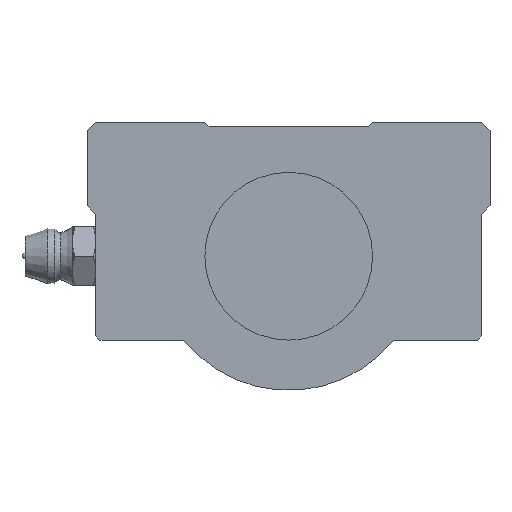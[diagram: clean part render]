
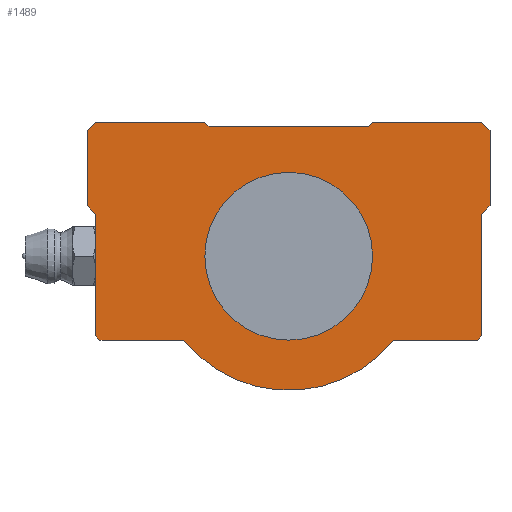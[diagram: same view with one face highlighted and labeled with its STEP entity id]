
A CAD part, left-side view. The second image highlights one B-rep face of the part: STEP entity #1489.
In plain terms, the highlighted planar face has unit normal (-1, 0, 0).
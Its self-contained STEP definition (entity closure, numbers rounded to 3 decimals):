
#1094=CARTESIAN_POINT('',(130.0,22.5,-10.));
#1095=VERTEX_POINT('',#1094);
#1102=CARTESIAN_POINT('',(130.0,23.,-9.5));
#1103=VERTEX_POINT('',#1102);
#1104=CARTESIAN_POINT('',(130.0,22.5,-10.));
#1105=DIRECTION('',(0.0,0.707,0.707));
#1106=VECTOR('',#1105,0.707);
#1107=LINE('',#1104,#1106);
#1108=EDGE_CURVE('',#1095,#1103,#1107,.T.);
#1133=CARTESIAN_POINT('',(130.0,12.49,-10.));
#1134=VERTEX_POINT('',#1133);
#1141=CARTESIAN_POINT('',(130.0,12.49,-10.));
#1142=DIRECTION('',(0.0,1.0,0.0));
#1143=VECTOR('',#1142,10.01);
#1144=LINE('',#1141,#1143);
#1145=EDGE_CURVE('',#1134,#1095,#1144,.T.);
#1326=CARTESIAN_POINT('',(130.0,-23.,-9.5));
#1327=VERTEX_POINT('',#1326);
#1334=CARTESIAN_POINT('',(130.0,-22.5,-10.));
#1335=VERTEX_POINT('',#1334);
#1336=CARTESIAN_POINT('',(130.0,-23.,-9.5));
#1337=DIRECTION('',(0.0,0.707,-0.707));
#1338=VECTOR('',#1337,0.707);
#1339=LINE('',#1336,#1338);
#1340=EDGE_CURVE('',#1327,#1335,#1339,.T.);
#1351=CARTESIAN_POINT('',(130.0,-17.0,15.75));
#1352=DIRECTION('',(1.0,0.0,0.0));
#1353=DIRECTION('',(0.0,0.0,-1.0));
#1354=AXIS2_PLACEMENT_3D('',#1351,#1352,#1353);
#1355=PLANE('',#1354);
#1356=ORIENTED_EDGE('',*,*,#1108,.F.);
#1357=ORIENTED_EDGE('',*,*,#1145,.F.);
#1358=CARTESIAN_POINT('',(130.0,-12.49,-10.));
#1359=VERTEX_POINT('',#1358);
#1360=CARTESIAN_POINT('',(130.0,0.0,0.0));
#1361=DIRECTION('',(1.,0.0,0.0));
#1362=DIRECTION('',(0.0,-0.781,-0.625));
#1363=AXIS2_PLACEMENT_3D('',#1360,#1361,#1362);
#1364=CIRCLE('',#1363,16.0);
#1365=EDGE_CURVE('',#1359,#1134,#1364,.T.);
#1366=ORIENTED_EDGE('',*,*,#1365,.F.);
#1367=CARTESIAN_POINT('',(130.0,-22.5,-10.));
#1368=DIRECTION('',(0.0,1.0,0.0));
#1369=VECTOR('',#1368,10.01);
#1370=LINE('',#1367,#1369);
#1371=EDGE_CURVE('',#1335,#1359,#1370,.T.);
#1372=ORIENTED_EDGE('',*,*,#1371,.F.);
#1373=ORIENTED_EDGE('',*,*,#1340,.F.);
#1374=CARTESIAN_POINT('',(130.0,-23.,5.));
#1375=VERTEX_POINT('',#1374);
#1376=CARTESIAN_POINT('',(130.0,-23.,5.));
#1377=DIRECTION('',(0.0,0.0,-1.0));
#1378=VECTOR('',#1377,14.5);
#1379=LINE('',#1376,#1378);
#1380=EDGE_CURVE('',#1375,#1327,#1379,.T.);
#1381=ORIENTED_EDGE('',*,*,#1380,.F.);
#1382=CARTESIAN_POINT('',(130.0,-24.,6.));
#1383=VERTEX_POINT('',#1382);
#1384=CARTESIAN_POINT('',(130.0,-24.,6.));
#1385=DIRECTION('',(0.0,0.707,-0.707));
#1386=VECTOR('',#1385,1.414);
#1387=LINE('',#1384,#1386);
#1388=EDGE_CURVE('',#1383,#1375,#1387,.T.);
#1389=ORIENTED_EDGE('',*,*,#1388,.F.);
#1390=CARTESIAN_POINT('',(130.0,-24.,15.));
#1391=VERTEX_POINT('',#1390);
#1392=CARTESIAN_POINT('',(130.0,-24.,15.));
#1393=DIRECTION('',(0.0,0.0,-1.0));
#1394=VECTOR('',#1393,9.);
#1395=LINE('',#1392,#1394);
#1396=EDGE_CURVE('',#1391,#1383,#1395,.T.);
#1397=ORIENTED_EDGE('',*,*,#1396,.F.);
#1398=CARTESIAN_POINT('',(130.0,-23.,16.));
#1399=VERTEX_POINT('',#1398);
#1400=CARTESIAN_POINT('',(130.0,-23.,16.));
#1401=DIRECTION('',(0.0,-0.707,-0.707));
#1402=VECTOR('',#1401,1.414);
#1403=LINE('',#1400,#1402);
#1404=EDGE_CURVE('',#1399,#1391,#1403,.T.);
#1405=ORIENTED_EDGE('',*,*,#1404,.F.);
#1406=CARTESIAN_POINT('',(130.0,-10.0,16.));
#1407=VERTEX_POINT('',#1406);
#1408=CARTESIAN_POINT('',(130.0,-10.0,16.));
#1409=DIRECTION('',(0.0,-1.0,0.0));
#1410=VECTOR('',#1409,13.);
#1411=LINE('',#1408,#1410);
#1412=EDGE_CURVE('',#1407,#1399,#1411,.T.);
#1413=ORIENTED_EDGE('',*,*,#1412,.F.);
#1414=CARTESIAN_POINT('',(130.0,-9.5,15.5));
#1415=VERTEX_POINT('',#1414);
#1416=CARTESIAN_POINT('',(130.0,-9.5,15.5));
#1417=DIRECTION('',(0.0,-0.707,0.707));
#1418=VECTOR('',#1417,0.707);
#1419=LINE('',#1416,#1418);
#1420=EDGE_CURVE('',#1415,#1407,#1419,.T.);
#1421=ORIENTED_EDGE('',*,*,#1420,.F.);
#1422=CARTESIAN_POINT('',(130.0,9.5,15.5));
#1423=VERTEX_POINT('',#1422);
#1424=CARTESIAN_POINT('',(130.0,9.5,15.5));
#1425=DIRECTION('',(0.0,-1.0,0.0));
#1426=VECTOR('',#1425,19.0);
#1427=LINE('',#1424,#1426);
#1428=EDGE_CURVE('',#1423,#1415,#1427,.T.);
#1429=ORIENTED_EDGE('',*,*,#1428,.F.);
#1430=CARTESIAN_POINT('',(130.0,10.0,16.));
#1431=VERTEX_POINT('',#1430);
#1432=CARTESIAN_POINT('',(130.0,10.0,16.));
#1433=DIRECTION('',(0.0,-0.707,-0.707));
#1434=VECTOR('',#1433,0.707);
#1435=LINE('',#1432,#1434);
#1436=EDGE_CURVE('',#1431,#1423,#1435,.T.);
#1437=ORIENTED_EDGE('',*,*,#1436,.F.);
#1438=CARTESIAN_POINT('',(130.0,23.,16.));
#1439=VERTEX_POINT('',#1438);
#1440=CARTESIAN_POINT('',(130.0,23.,16.));
#1441=DIRECTION('',(0.0,-1.0,0.0));
#1442=VECTOR('',#1441,13.);
#1443=LINE('',#1440,#1442);
#1444=EDGE_CURVE('',#1439,#1431,#1443,.T.);
#1445=ORIENTED_EDGE('',*,*,#1444,.F.);
#1446=CARTESIAN_POINT('',(130.0,24.,15.));
#1447=VERTEX_POINT('',#1446);
#1448=CARTESIAN_POINT('',(130.0,24.,15.));
#1449=DIRECTION('',(0.0,-0.707,0.707));
#1450=VECTOR('',#1449,1.414);
#1451=LINE('',#1448,#1450);
#1452=EDGE_CURVE('',#1447,#1439,#1451,.T.);
#1453=ORIENTED_EDGE('',*,*,#1452,.F.);
#1454=CARTESIAN_POINT('',(130.0,24.,6.));
#1455=VERTEX_POINT('',#1454);
#1456=CARTESIAN_POINT('',(130.0,24.,6.));
#1457=DIRECTION('',(0.0,0.0,1.0));
#1458=VECTOR('',#1457,9.);
#1459=LINE('',#1456,#1458);
#1460=EDGE_CURVE('',#1455,#1447,#1459,.T.);
#1461=ORIENTED_EDGE('',*,*,#1460,.F.);
#1462=CARTESIAN_POINT('',(130.0,23.,5.));
#1463=VERTEX_POINT('',#1462);
#1464=CARTESIAN_POINT('',(130.0,23.,5.));
#1465=DIRECTION('',(0.0,0.707,0.707));
#1466=VECTOR('',#1465,1.414);
#1467=LINE('',#1464,#1466);
#1468=EDGE_CURVE('',#1463,#1455,#1467,.T.);
#1469=ORIENTED_EDGE('',*,*,#1468,.F.);
#1470=CARTESIAN_POINT('',(130.0,23.,-9.5));
#1471=DIRECTION('',(0.0,0.0,1.0));
#1472=VECTOR('',#1471,14.5);
#1473=LINE('',#1470,#1472);
#1474=EDGE_CURVE('',#1103,#1463,#1473,.T.);
#1475=ORIENTED_EDGE('',*,*,#1474,.F.);
#1476=EDGE_LOOP('',(#1356,#1357,#1366,#1372,#1373,#1381,#1389,#1397,#1405,#1413,#1421,#1429,#1437,#1445,#1453,#1461,#1469,#1475));
#1477=FACE_OUTER_BOUND('',#1476,.T.);
#1478=CARTESIAN_POINT('',(130.0,10.0,0.));
#1479=VERTEX_POINT('',#1478);
#1480=CARTESIAN_POINT('',(130.0,0.0,0.0));
#1481=DIRECTION('',(1.0,0.0,0.0));
#1482=DIRECTION('',(0.0,-1.0,0.0));
#1483=AXIS2_PLACEMENT_3D('',#1480,#1481,#1482);
#1484=CIRCLE('',#1483,10.0);
#1485=EDGE_CURVE('',#1479,#1479,#1484,.T.);
#1486=ORIENTED_EDGE('',*,*,#1485,.T.);
#1487=EDGE_LOOP('',(#1486));
#1488=FACE_BOUND('',#1487,.T.);
#1489=ADVANCED_FACE('',(#1477,#1488),#1355,.F.);
